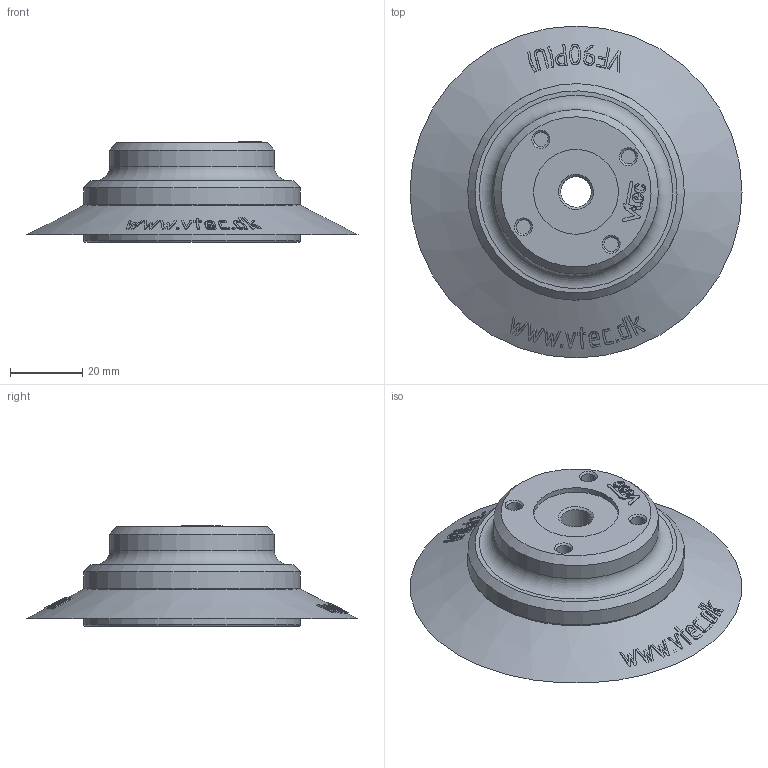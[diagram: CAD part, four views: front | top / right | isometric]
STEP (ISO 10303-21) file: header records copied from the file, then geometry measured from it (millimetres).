
FILE_DESCRIPTION( ( 'STEP AP203' ), '1' );
FILE_NAME( 'C:/Documents and Settings/Owner/官帕 拳搁/3D/Vacuum Pad/VF series/VF90-18F.stp', '2006-04-25T04:58:55', ( ' ' ), ( ' ' ), 'XStep 1.0', ' ', ' ' );
FILE_SCHEMA( ( 'CONFIG_CONTROL_DESIGN) ( )' ) );
Length unit declared in the file: metre
Products named in the file (3): Assem1; 1; 2
Bounding box: 92 x 92 x 27.85 mm (x, y, z)
Volume: 100321.3 mm3; surface area: 53101.3 mm2
Topology: 4 solids, 4 shells, 1240 faces, 3358 edges, 2216 vertices
Faces by surface type: plane 574, cylinder 298, bspline 284, cone 72, torus 8, extrusion 4
Full cylindrical faces by diameter (mm): 0.791 x2, 4 x16, 6.4 x8, 8.5 x2, 10.5 x2, 15 x2, 23.5 x2, 45.6 x2, 55 x4, 60 x2
Entity records: 27139 total; most frequent: CARTESIAN_POINT 12342, ORIENTED_EDGE 3258, DIRECTION 2603, EDGE_CURVE 1629, VERTEX_POINT 1097, VECTOR 935, LINE 933, AXIS2_PLACEMENT_3D 834
